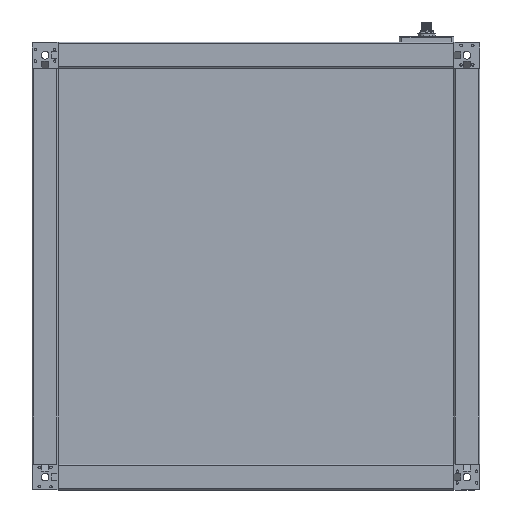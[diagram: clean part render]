
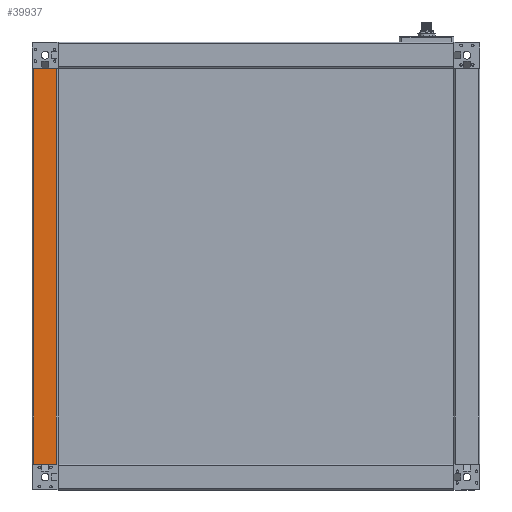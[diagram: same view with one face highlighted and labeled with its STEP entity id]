
A CAD part, front view. The second image highlights one B-rep face of the part: STEP entity #39937.
In plain terms, the highlighted planar face has unit normal (0, -1, 0).
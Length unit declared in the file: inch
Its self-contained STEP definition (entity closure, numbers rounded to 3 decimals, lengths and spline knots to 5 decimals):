
#1298 = LINE ( 'NONE', #46195, #21045 ) ;
#1636 = FACE_OUTER_BOUND ( 'NONE', #27511, .T. ) ;
#1792 = AXIS2_PLACEMENT_3D ( 'NONE', #16384, #20362, #47922 ) ;
#1800 = VERTEX_POINT ( 'NONE', #47188 ) ;
#1913 = ORIENTED_EDGE ( 'NONE', *, *, #44785, .T. ) ;
#2546 = ORIENTED_EDGE ( 'NONE', *, *, #37533, .F. ) ;
#3986 = ORIENTED_EDGE ( 'NONE', *, *, #14429, .T. ) ;
#4840 = LINE ( 'NONE', #10441, #33846 ) ;
#4930 = LINE ( 'NONE', #16909, #44402 ) ;
#5263 = CARTESIAN_POINT ( 'NONE',  ( 0.51181, -0.59055, 9.03543 ) ) ;
#10441 = CARTESIAN_POINT ( 'NONE',  ( 0.51181, -0.59055, 9.03543 ) ) ;
#12441 = PLANE ( 'NONE',  #1792 ) ;
#14407 = DIRECTION ( 'NONE',  ( 0., 0., -1. ) ) ;
#14429 = EDGE_CURVE ( 'NONE', #49445, #37760, #25184, .T. ) ;
#14697 = VECTOR ( 'NONE', #26131, 39.37008 ) ;
#16384 = CARTESIAN_POINT ( 'NONE',  ( 0., -0.59055, 9.03543 ) ) ;
#16909 = CARTESIAN_POINT ( 'NONE',  ( 0., -0.59055, 9.03543 ) ) ;
#20362 = DIRECTION ( 'NONE',  ( 0., 1., 0. ) ) ;
#21045 = VECTOR ( 'NONE', #50166, 39.37008 ) ;
#25184 = LINE ( 'NONE', #41822, #14697 ) ;
#26131 = DIRECTION ( 'NONE',  ( 0., 0., -1. ) ) ;
#26844 = CARTESIAN_POINT ( 'NONE',  ( -0.51181, -0.59055, 9.03543 ) ) ;
#27511 = EDGE_LOOP ( 'NONE', ( #1913, #50045, #2546, #3986 ) ) ;
#28816 = DIRECTION ( 'NONE',  ( 1., 0., 0. ) ) ;
#33846 = VECTOR ( 'NONE', #14407, 39.37008 ) ;
#36628 = VERTEX_POINT ( 'NONE', #5263 ) ;
#37533 = EDGE_CURVE ( 'NONE', #49445, #36628, #4930, .T. ) ;
#37760 = VERTEX_POINT ( 'NONE', #49296 ) ;
#39937 = ADVANCED_FACE ( 'NONE', ( #1636 ), #12441, .F. ) ;
#41822 = CARTESIAN_POINT ( 'NONE',  ( -0.51181, -0.59055, 9.03543 ) ) ;
#44402 = VECTOR ( 'NONE', #28816, 39.37008 ) ;
#44785 = EDGE_CURVE ( 'NONE', #37760, #1800, #1298, .T. ) ;
#46195 = CARTESIAN_POINT ( 'NONE',  ( 0., -0.59055, -9.03543 ) ) ;
#47188 = CARTESIAN_POINT ( 'NONE',  ( 0.51181, -0.59055, -9.03543 ) ) ;
#47922 = DIRECTION ( 'NONE',  ( 0., 0., 1. ) ) ;
#49296 = CARTESIAN_POINT ( 'NONE',  ( -0.51181, -0.59055, -9.03543 ) ) ;
#49445 = VERTEX_POINT ( 'NONE', #26844 ) ;
#50045 = ORIENTED_EDGE ( 'NONE', *, *, #50221, .F. ) ;
#50166 = DIRECTION ( 'NONE',  ( 1., 0., 0. ) ) ;
#50221 = EDGE_CURVE ( 'NONE', #36628, #1800, #4840, .T. ) ;
